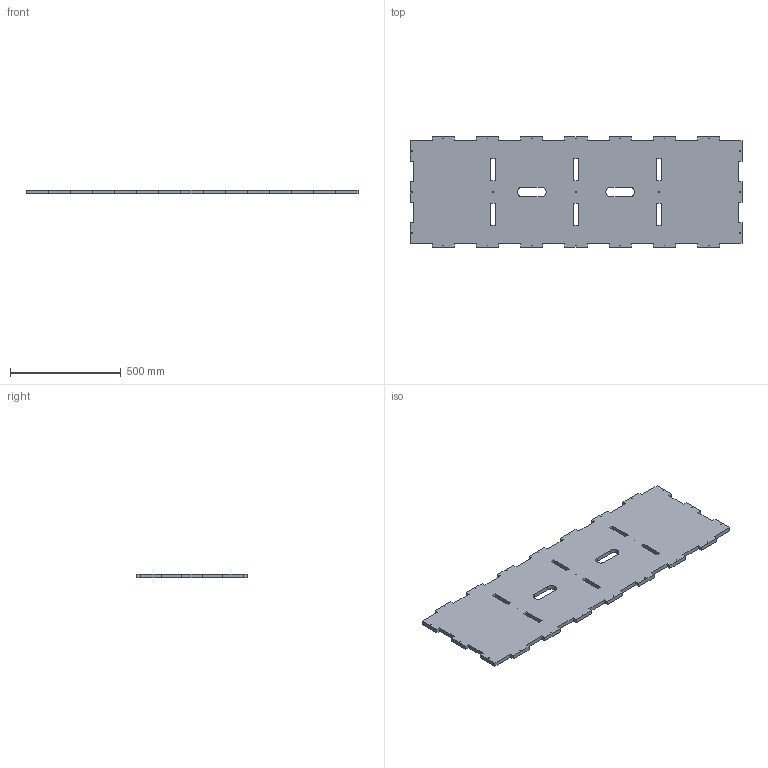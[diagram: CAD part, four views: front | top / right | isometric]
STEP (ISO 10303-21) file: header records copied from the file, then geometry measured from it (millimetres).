
FILE_DESCRIPTION(('Open CASCADE Model'),'2;1');
FILE_NAME('Open CASCADE Shape Model','2026-09-28T10:14:43',('Author'),( 'Open CASCADE'),'Open CASCADE STEP processor 7.9','Open CASCADE 7.9' ,'Unknown');
FILE_SCHEMA(('AUTOMOTIVE_DESIGN { 1 0 10303 214 1 1 1 1 }'));
Length unit declared in the file: millimetre
Products named in the file (1): Open CASCADE STEP translator 7.9 65
Bounding box: 1500 x 500 x 18 mm (x, y, z)
Volume: 12467390.3 mm3; surface area: 1507668.9 mm2
Topology: 1 solids, 1 shells, 133 faces, 393 edges, 262 vertices
Faces by surface type: plane 106, cylinder 27
Full cylindrical faces by diameter (mm): 2.5 x23
Entity records: 9644 total; most frequent: CARTESIAN_POINT 1575, DIRECTION 1501, LINE 1071, VECTOR 1071, ORIENTED_EDGE 786, PCURVE 786, DEFINITIONAL_REPRESENTATION 786, EDGE_CURVE 393
